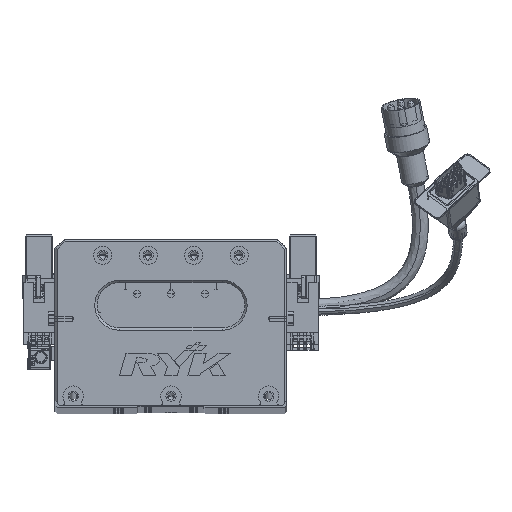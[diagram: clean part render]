
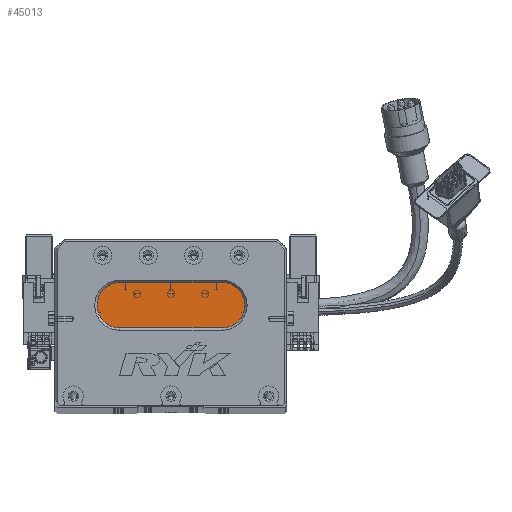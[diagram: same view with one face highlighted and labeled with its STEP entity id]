
A CAD part, top view. The second image highlights one B-rep face of the part: STEP entity #45013.
In plain terms, the highlighted planar face has unit normal (0, 0, 1) as drawn and (0, 0, -1) by its records, which use the part's own axes.
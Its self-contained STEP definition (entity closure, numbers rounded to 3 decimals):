
#890 = CARTESIAN_POINT ( 'NONE',  ( 73.5, 34., 13. ) ) ;
#1994 = EDGE_CURVE ( 'NONE', #50803, #28415, #29151, .T. ) ;
#2089 = DIRECTION ( 'NONE',  ( 0., 0., -1. ) ) ;
#3559 = EDGE_LOOP ( 'NONE', ( #20133, #47229, #38439, #14140, #45800 ) ) ;
#4285 = FACE_OUTER_BOUND ( 'NONE', #3559, .T. ) ;
#6849 = VERTEX_POINT ( 'NONE', #67273 ) ;
#8683 = CARTESIAN_POINT ( 'NONE',  ( 73.5, 44., 13. ) ) ;
#14140 = ORIENTED_EDGE ( 'NONE', *, *, #41828, .T. ) ;
#14526 = DIRECTION ( 'NONE',  ( -1., 0., 0. ) ) ;
#15463 = DIRECTION ( 'NONE',  ( -1., 0., 0. ) ) ;
#16886 = DIRECTION ( 'NONE',  ( 1., 0., 0. ) ) ;
#20133 = ORIENTED_EDGE ( 'NONE', *, *, #49091, .T. ) ;
#21068 = CARTESIAN_POINT ( 'NONE',  ( 28.5, 34., 13. ) ) ;
#24649 = AXIS2_PLACEMENT_3D ( 'NONE', #62907, #62411, #15463 ) ;
#28415 = VERTEX_POINT ( 'NONE', #21068 ) ;
#28586 = LINE ( 'NONE', #39632, #68704 ) ;
#29151 = LINE ( 'NONE', #890, #42011 ) ;
#34003 = AXIS2_PLACEMENT_3D ( 'NONE', #60749, #72483, #73248 ) ;
#38439 = ORIENTED_EDGE ( 'NONE', *, *, #71969, .T. ) ;
#39589 = CARTESIAN_POINT ( 'NONE',  ( 73.5, 54., 13. ) ) ;
#39632 = CARTESIAN_POINT ( 'NONE',  ( 73.5, 54., 13. ) ) ;
#41828 = EDGE_CURVE ( 'NONE', #45085, #6849, #53069, .T. ) ;
#42011 = VECTOR ( 'NONE', #47250, 1000. ) ;
#42754 = DIRECTION ( 'NONE',  ( -1., 0., 0. ) ) ;
#45013 = ADVANCED_FACE ( 'NONE', ( #4285 ), #48743, .T. ) ;
#45085 = VERTEX_POINT ( 'NONE', #56408 ) ;
#45800 = ORIENTED_EDGE ( 'NONE', *, *, #60723, .T. ) ;
#47229 = ORIENTED_EDGE ( 'NONE', *, *, #1994, .T. ) ;
#47250 = DIRECTION ( 'NONE',  ( -1., 0., 0. ) ) ;
#48585 = CARTESIAN_POINT ( 'NONE',  ( 28.5, 44., 13. ) ) ;
#48743 = PLANE ( 'NONE',  #34003 ) ;
#49091 = EDGE_CURVE ( 'NONE', #58346, #50803, #69503, .T. ) ;
#50803 = VERTEX_POINT ( 'NONE', #56986 ) ;
#53069 = CIRCLE ( 'NONE', #24649, 10. ) ;
#56408 = CARTESIAN_POINT ( 'NONE',  ( 18.5, 44., 13. ) ) ;
#56986 = CARTESIAN_POINT ( 'NONE',  ( 73.5, 34., 13. ) ) ;
#58346 = VERTEX_POINT ( 'NONE', #39589 ) ;
#59596 = DIRECTION ( 'NONE',  ( 0., 0., -1. ) ) ;
#60723 = EDGE_CURVE ( 'NONE', #6849, #58346, #28586, .T. ) ;
#60749 = CARTESIAN_POINT ( 'NONE',  ( 73.5, 44., 13. ) ) ;
#62411 = DIRECTION ( 'NONE',  ( 0., 0., -1. ) ) ;
#62907 = CARTESIAN_POINT ( 'NONE',  ( 28.5, 44., 13. ) ) ;
#65825 = AXIS2_PLACEMENT_3D ( 'NONE', #48585, #59596, #42754 ) ;
#67273 = CARTESIAN_POINT ( 'NONE',  ( 28.5, 54., 13. ) ) ;
#68704 = VECTOR ( 'NONE', #16886, 1000. ) ;
#69503 = CIRCLE ( 'NONE', #74329, 10. ) ;
#71513 = CIRCLE ( 'NONE', #65825, 10. ) ;
#71969 = EDGE_CURVE ( 'NONE', #28415, #45085, #71513, .T. ) ;
#72483 = DIRECTION ( 'NONE',  ( 0., 0., -1. ) ) ;
#73248 = DIRECTION ( 'NONE',  ( -1., 0., 0. ) ) ;
#74329 = AXIS2_PLACEMENT_3D ( 'NONE', #8683, #2089, #14526 ) ;
